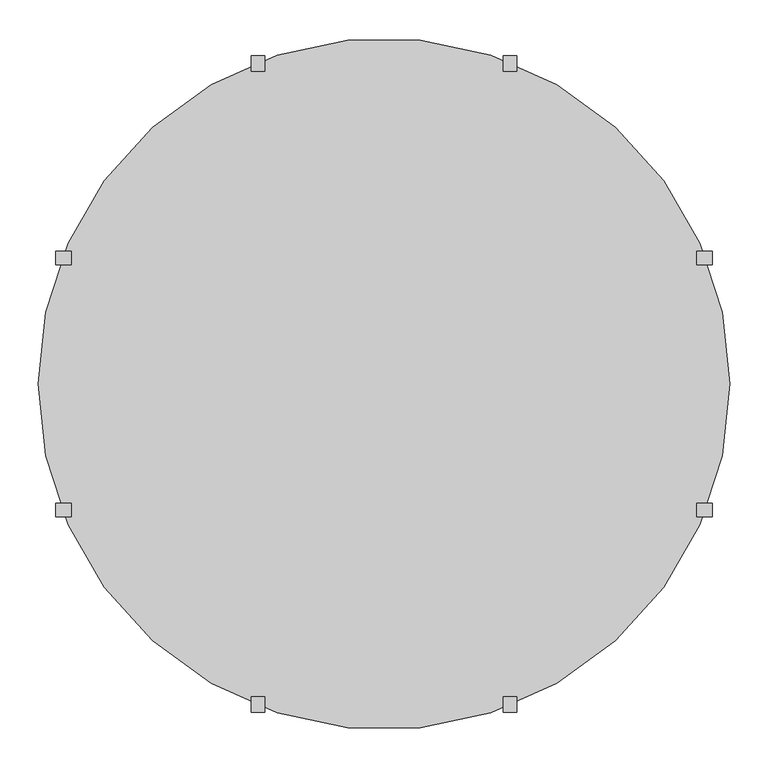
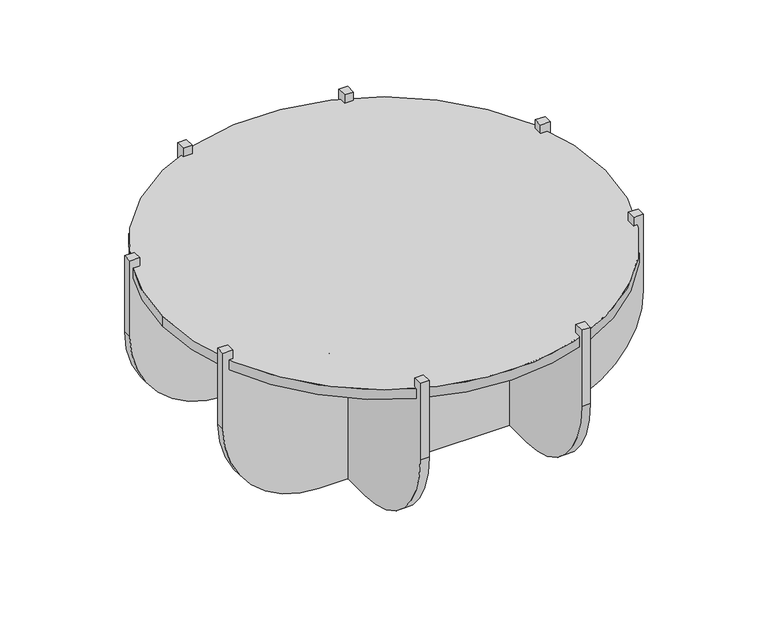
"""IFC4 building model written with IfcOpenShell, lengths in millimetres: furniture geometry, Lundbergs Möbler - Funghi Piccolo - Coffee Table - Round - Ø90 - H35 : Lundbergs Möbler - Funghi Piccolo - Coffee Table - Round - Ø90 - H35."""

from ifc_helpers import new_model, si_unit, point, frame, frame_2d, origin, origin_2d, place, context, project, spatial, polyline, circle_curve, trimmed, segment, composite_curve, outline, extrude, source, transform, mapped, element, save


def furniture_caf5edef(model_context):
    return source(origin(), model_context, "Body", "SweptSolid", [
        extrude(outline(composite_curve([segment(trimmed(circle_curve(frame_2d((-204.0, 318.3870185)), 8.5), [point((-204.0, 309.8870185))], [point((-212.5, 318.3870185))], False, "CARTESIAN"), True, "CONTINUOUS"), segment(polyline([(-212.5, 318.3870185), (-212.5, 320.0), (212.5, 320.0), (212.5, 318.3870185)]), True, "CONTINUOUS"), segment(trimmed(circle_curve(frame_2d((204.0, 318.3870185)), 8.5), [point((212.5, 318.3870185))], [point((204.0, 309.8870185))], False, "CARTESIAN"), True, "CONTINUOUS"), segment(polyline([(204.0, 309.8870185), (-204.0, 309.8870185)]), True, "CONTINUOUS")], self_intersect=False)), frame((232.4999784, 0.0, 0.0), z_axis=(1.0, 0.0, 0.0), x_axis=(0.0, 1.0, 0.0)), (0.0, 0.0, 1.0), 40.0000216),
        extrude(outline(composite_curve([segment(trimmed(circle_curve(frame_2d((318.3870185, 204.0)), 8.5), [point((309.8870185, 204.0))], [point((318.3870185, 212.5))], False, "CARTESIAN"), True, "CONTINUOUS"), segment(polyline([(318.3870185, 212.5), (320.0, 212.5), (320.0, -212.5), (318.3870185, -212.5)]), True, "CONTINUOUS"), segment(trimmed(circle_curve(frame_2d((318.3870185, -204.0)), 8.5), [point((318.3870185, -212.5))], [point((309.8870185, -204.0))], False, "CARTESIAN"), True, "CONTINUOUS"), segment(polyline([(309.8870185, -204.0), (309.8870185, 204.0)]), True, "CONTINUOUS")], self_intersect=False)), frame((0.0, -272.5, 0.0), z_axis=(0.0, 1.0, 0.0), x_axis=(0.0, 0.0, 1.0)), (0.0, 0.0, 1.0), 40.0000216),
        extrude(outline(composite_curve([segment(trimmed(circle_curve(frame_2d((318.3870185, 204.0)), 8.5), [point((309.8870185, 204.0))], [point((318.3870185, 212.5))], False, "CARTESIAN"), True, "CONTINUOUS"), segment(polyline([(318.3870185, 212.5), (320.0, 212.5), (320.0, -212.5), (318.3870185, -212.5)]), True, "CONTINUOUS"), segment(trimmed(circle_curve(frame_2d((318.3870185, -204.0)), 8.5), [point((318.3870185, -212.5))], [point((309.8870185, -204.0))], False, "CARTESIAN"), True, "CONTINUOUS"), segment(polyline([(309.8870185, -204.0), (309.8870185, 204.0)]), True, "CONTINUOUS")], self_intersect=False)), frame((0.0, 232.4999784, 0.0), z_axis=(0.0, 1.0, 0.0), x_axis=(0.0, 0.0, 1.0)), (0.0, 0.0, 1.0), 40.0000216),
        extrude(outline(composite_curve([segment(trimmed(circle_curve(frame_2d((-204.0, 318.3870185)), 8.5), [point((-204.0, 309.8870185))], [point((-212.5, 318.3870185))], False, "CARTESIAN"), True, "CONTINUOUS"), segment(polyline([(-212.5, 318.3870185), (-212.5, 320.0), (212.5, 320.0), (212.5, 318.3870185)]), True, "CONTINUOUS"), segment(trimmed(circle_curve(frame_2d((204.0, 318.3870185)), 8.5), [point((212.5, 318.3870185))], [point((204.0, 309.8870185))], False, "CARTESIAN"), True, "CONTINUOUS"), segment(polyline([(204.0, 309.8870185), (-204.0, 309.8870185)]), True, "CONTINUOUS")], self_intersect=False)), frame((-272.5, 0.0, 0.0), z_axis=(1.0, 0.0, 0.0), x_axis=(0.0, 1.0, 0.0)), (0.0, 0.0, 1.0), 40.0000216),
        extrude(outline(composite_curve([segment(polyline([(407.5, 320.0), (407.5, 359.0), (427.5, 359.0), (427.5, 195.0)]), True, "CONTINUOUS"), segment(trimmed(circle_curve(frame_2d((232.5, 195.0)), 195.0), [point((427.5, 195.0))], [point((232.5, 0.0))], False, "CARTESIAN"), True, "CONTINUOUS"), segment(polyline([(232.5, 0.0), (-232.5, 0.0)]), True, "CONTINUOUS"), segment(trimmed(circle_curve(frame_2d((-232.5, 195.0)), 195.0), [point((-232.5, 0.0))], [point((-427.5, 195.0))], False, "CARTESIAN"), True, "CONTINUOUS"), segment(polyline([(-427.5, 195.0), (-427.5, 359.0), (-407.5, 359.0), (-407.5, 320.0), (407.5, 320.0)]), True, "CONTINUOUS")], self_intersect=False)), frame((155.0, 0.0, 0.0), z_axis=(1.0, 0.0, 0.0), x_axis=(0.0, 1.0, 0.0)), (0.0, 0.0, 1.0), 18.0),
        extrude(outline(composite_curve([segment(polyline([(407.5, 320.0), (407.5, 359.0), (427.5, 359.0), (427.5, 195.0)]), True, "CONTINUOUS"), segment(trimmed(circle_curve(frame_2d((232.5, 195.0)), 195.0), [point((427.5, 195.0))], [point((232.5, 0.0))], False, "CARTESIAN"), True, "CONTINUOUS"), segment(polyline([(232.5, 0.0), (-232.5, 0.0)]), True, "CONTINUOUS"), segment(trimmed(circle_curve(frame_2d((-232.5, 195.0)), 195.0), [point((-232.5, 0.0))], [point((-427.5, 195.0))], False, "CARTESIAN"), True, "CONTINUOUS"), segment(polyline([(-427.5, 195.0), (-427.5, 359.0), (-407.5, 359.0), (-407.5, 320.0), (407.5, 320.0)]), True, "CONTINUOUS")], self_intersect=False)), frame((-173.0, 0.0, 0.0), z_axis=(1.0, 0.0, 0.0), x_axis=(0.0, 1.0, 0.0)), (0.0, 0.0, 1.0), 18.0),
        extrude(outline(composite_curve([segment(polyline([(320.0, -407.5), (359.0, -407.5), (359.0, -427.5), (195.0, -427.5)]), True, "CONTINUOUS"), segment(trimmed(circle_curve(frame_2d((195.0, -232.5)), 195.0), [point((195.0, -427.5))], [point((0.0, -232.5))], False, "CARTESIAN"), True, "CONTINUOUS"), segment(polyline([(0.0, -232.5), (0.0, 232.5)]), True, "CONTINUOUS"), segment(trimmed(circle_curve(frame_2d((195.0, 232.5)), 195.0), [point((0.0, 232.5))], [point((195.0, 427.5))], False, "CARTESIAN"), True, "CONTINUOUS"), segment(polyline([(195.0, 427.5), (359.0, 427.5), (359.0, 407.5), (320.0, 407.5), (320.0, -407.5)]), True, "CONTINUOUS")], self_intersect=False)), frame((0.0, 155.0, 0.0), z_axis=(0.0, 1.0, 0.0), x_axis=(0.0, 0.0, 1.0)), (0.0, 0.0, 1.0), 18.0),
        extrude(outline(composite_curve([segment(polyline([(320.0, -407.5), (359.0, -407.5), (359.0, -427.5), (195.0, -427.5)]), True, "CONTINUOUS"), segment(trimmed(circle_curve(frame_2d((195.0, -232.5)), 195.0), [point((195.0, -427.5))], [point((0.0, -232.5))], False, "CARTESIAN"), True, "CONTINUOUS"), segment(polyline([(0.0, -232.5), (0.0, 232.5)]), True, "CONTINUOUS"), segment(trimmed(circle_curve(frame_2d((195.0, 232.5)), 195.0), [point((0.0, 232.5))], [point((195.0, 427.5))], False, "CARTESIAN"), True, "CONTINUOUS"), segment(polyline([(195.0, 427.5), (359.0, 427.5), (359.0, 407.5), (320.0, 407.5), (320.0, -407.5)]), True, "CONTINUOUS")], self_intersect=False)), frame((0.0, -173.0, 0.0), z_axis=(0.0, 1.0, 0.0), x_axis=(0.0, 0.0, 1.0)), (0.0, 0.0, 1.0), 18.0),
        extrude(outline(composite_curve([segment(trimmed(circle_curve(origin_2d(), 450.0), [point((-450.0, 0.0))], [point((450.0, 0.0))], False, "CARTESIAN"), True, "CONTINUOUS"), segment(trimmed(circle_curve(origin_2d(), 450.0), [point((450.0, 0.0))], [point((-450.0, 0.0))], False, "CARTESIAN"), True, "CONTINUOUS")], self_intersect=False)), frame((0.0, 0.0, 320.0), z_axis=(0.0, 0.0, 1.0), x_axis=(1.0, 0.0, 0.0)), (0.0, 0.0, 1.0), 21.0),
    ])


if __name__ == "__main__":
    model = new_model("IFC4")
    model_context = context("Model", 3, world=origin())
    ifc_project = project(units=[si_unit("LENGTHUNIT", "METRE", prefix="MILLI")], contexts=[model_context])
    site = spatial("IfcSite", under=ifc_project)
    building = spatial("IfcBuilding", under=site)
    placement = place(None, origin())
    furniture_shape = furniture_caf5edef(model_context)
    element("IfcFurniture", 1, ObjectType="Lundbergs Möbler - Funghi Piccolo - Coffee Table - Round - Ø90 - H35 : Lundbergs Möbler - Funghi Piccolo - Coffee Table - Round - Ø90 - H35", at=placement, inside=building, context=model_context, shape_type="MappedRepresentation", body=[
        mapped(furniture_shape, transform((0.0, 0.0, 0.0), x_axis=(1.0, 0.0, 0.0), y_axis=(0.0, 1.0, 0.0), z_axis=(0.0, 0.0, 1.0))),
    ])
    save(model, "model.ifc")
